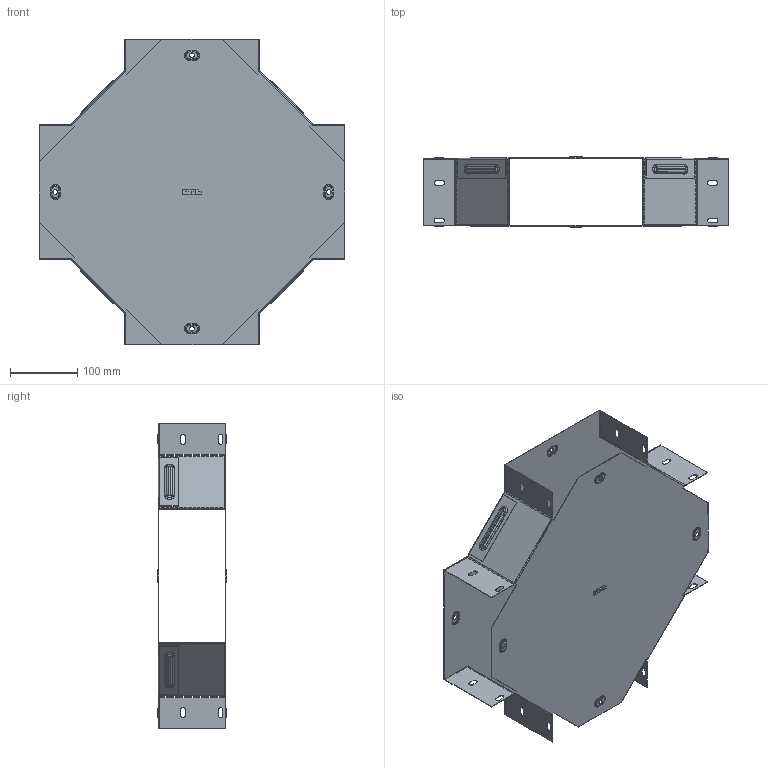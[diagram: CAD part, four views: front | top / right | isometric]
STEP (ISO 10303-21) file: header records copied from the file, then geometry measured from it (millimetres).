
FILE_DESCRIPTION (( 'STEP AP214' ), '1' );
FILE_NAME ('x10020008_捘.STEP', '2019-06-10T07:52:27', ( '砐錪賧瘔蠈錪 Windows' ), ( '' ), 'SwSTEP 2.0', 'SolidWorks 2018', '' );
FILE_SCHEMA (( 'AUTOMOTIVE_DESIGN' ));
Length unit declared in the file: millimetre
Products named in the file (1): x10020008_捘
Bounding box: 455.01 x 103.8 x 455.01 mm (x, y, z)
Volume: 310898.8 mm3; surface area: 782975.1 mm2
Topology: 2 solids, 2 shells, 1044 faces, 3180 edges, 2072 vertices
Faces by surface type: plane 550, cylinder 348, torus 128, bspline 18
Entity records: 36715 total; most frequent: CARTESIAN_POINT 7255, ORIENTED_EDGE 6360, DIRECTION 6086, EDGE_CURVE 3180, VECTOR 2256, LINE 2256, VERTEX_POINT 2072, AXIS2_PLACEMENT_3D 1915
